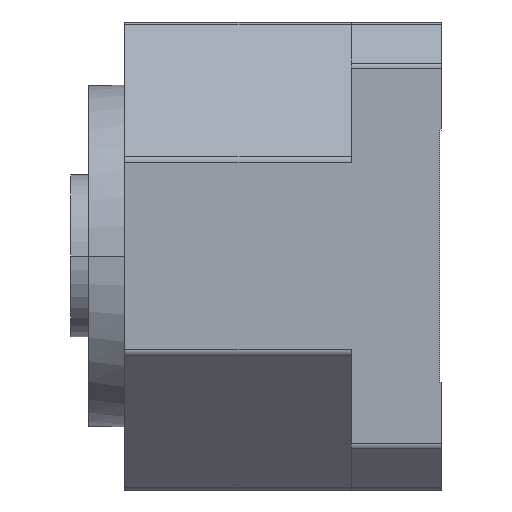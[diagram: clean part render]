
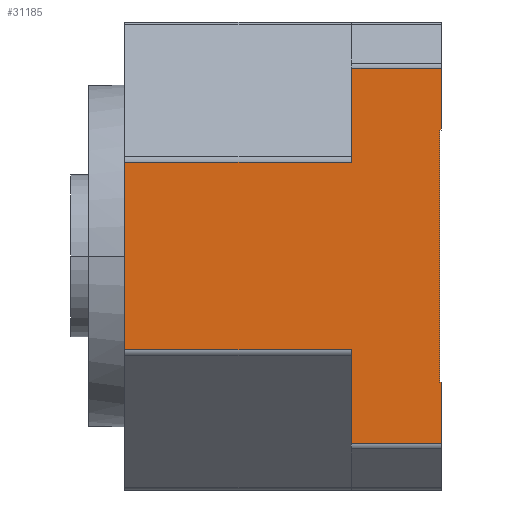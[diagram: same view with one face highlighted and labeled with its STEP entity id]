
A CAD part, left-side view. The second image highlights one B-rep face of the part: STEP entity #31185.
In plain terms, the highlighted planar face has unit normal (-1, 0, 0).
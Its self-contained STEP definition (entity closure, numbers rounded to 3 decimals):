
#27137=DIRECTION('',(0.,0.,1.));
#27138=VECTOR('',#27137,17.172);
#27139=CARTESIAN_POINT('',(-65.,-63.,-52.172));
#27140=LINE('',#27139,#27138);
#27218=DIRECTION('',(0.,0.,1.));
#27219=VECTOR('',#27218,17.172);
#27220=CARTESIAN_POINT('',(-65.,-63.,35.));
#27221=LINE('',#27220,#27219);
#27325=DIRECTION('',(0.,0.,-1.));
#27326=VECTOR('',#27325,26.076);
#27327=CARTESIAN_POINT('',(-65.,-38.,-26.095));
#27328=LINE('',#27327,#27326);
#27370=DIRECTION('',(0.,0.,-1.));
#27371=VECTOR('',#27370,26.076);
#27372=CARTESIAN_POINT('',(-65.,-38.,52.172));
#27373=LINE('',#27372,#27371);
#27499=DIRECTION('',(0.,0.,1.));
#27500=VECTOR('',#27499,52.191);
#27501=CARTESIAN_POINT('',(-65.,25.,-26.095));
#27502=LINE('',#27501,#27500);
#27982=DIRECTION('',(0.,-1.,0.));
#27983=VECTOR('',#27982,25.);
#27984=CARTESIAN_POINT('',(-65.,-38.,-52.172));
#27985=LINE('',#27984,#27983);
#27986=DIRECTION('',(0.,-1.,0.));
#27987=VECTOR('',#27986,63.);
#27988=CARTESIAN_POINT('',(-65.,25.,-26.095));
#27989=LINE('',#27988,#27987);
#27990=DIRECTION('',(0.,1.,0.));
#27991=VECTOR('',#27990,63.);
#27992=CARTESIAN_POINT('',(-65.,-38.,26.095));
#27993=LINE('',#27992,#27991);
#27994=DIRECTION('',(0.,1.,0.));
#27995=VECTOR('',#27994,25.);
#27996=CARTESIAN_POINT('',(-65.,-63.,52.172));
#27997=LINE('',#27996,#27995);
#27998=DIRECTION('',(0.,1.,0.));
#27999=VECTOR('',#27998,0.5);
#28000=CARTESIAN_POINT('',(-65.,-63.,35.));
#28001=LINE('',#28000,#27999);
#28002=DIRECTION('',(0.,0.,1.));
#28003=VECTOR('',#28002,70.);
#28004=CARTESIAN_POINT('',(-65.,-62.5,-35.));
#28005=LINE('',#28004,#28003);
#28006=DIRECTION('',(0.,1.,0.));
#28007=VECTOR('',#28006,0.5);
#28008=CARTESIAN_POINT('',(-65.,-63.,-35.));
#28009=LINE('',#28008,#28007);
#29596=CARTESIAN_POINT('',(-65.,-63.,35.));
#29597=VERTEX_POINT('',#29596);
#29598=CARTESIAN_POINT('',(-65.,-63.,-35.));
#29600=VERTEX_POINT('',#29598);
#29604=CARTESIAN_POINT('',(-65.,-62.5,-35.));
#29605=CARTESIAN_POINT('',(-65.,-62.5,35.));
#29606=VERTEX_POINT('',#29604);
#29607=VERTEX_POINT('',#29605);
#29654=CARTESIAN_POINT('',(-65.,-63.,-52.172));
#29656=VERTEX_POINT('',#29654);
#29660=CARTESIAN_POINT('',(-65.,-38.,-52.172));
#29661=VERTEX_POINT('',#29660);
#29686=CARTESIAN_POINT('',(-65.,-38.,52.172));
#29688=VERTEX_POINT('',#29686);
#29692=CARTESIAN_POINT('',(-65.,-63.,52.172));
#29693=VERTEX_POINT('',#29692);
#29738=CARTESIAN_POINT('',(-65.,25.,-26.095));
#29739=VERTEX_POINT('',#29738);
#29740=CARTESIAN_POINT('',(-65.,-38.,-26.095));
#29741=VERTEX_POINT('',#29740);
#29742=CARTESIAN_POINT('',(-65.,25.,26.095));
#29744=VERTEX_POINT('',#29742);
#29748=CARTESIAN_POINT('',(-65.,-38.,26.095));
#29749=VERTEX_POINT('',#29748);
#31160=CARTESIAN_POINT('',(-65.,-63.,-65.));
#31161=DIRECTION('',(-1.,0.,0.));
#31162=DIRECTION('',(0.,0.,1.));
#31163=AXIS2_PLACEMENT_3D('',#31160,#31161,#31162);
#31164=PLANE('',#31163);
#31166=ORIENTED_EDGE('',*,*,#31165,.F.);
#31167=ORIENTED_EDGE('',*,*,#30457,.F.);
#31169=ORIENTED_EDGE('',*,*,#31168,.F.);
#31170=ORIENTED_EDGE('',*,*,#30669,.T.);
#31172=ORIENTED_EDGE('',*,*,#31171,.F.);
#31173=ORIENTED_EDGE('',*,*,#30509,.F.);
#31175=ORIENTED_EDGE('',*,*,#31174,.F.);
#31176=ORIENTED_EDGE('',*,*,#30363,.F.);
#31178=ORIENTED_EDGE('',*,*,#31177,.T.);
#31179=ORIENTED_EDGE('',*,*,#31129,.F.);
#31181=ORIENTED_EDGE('',*,*,#31180,.F.);
#31182=ORIENTED_EDGE('',*,*,#30297,.F.);
#31183=EDGE_LOOP('',(#31166,#31167,#31169,#31170,#31172,#31173,#31175,#31176,
#31178,#31179,#31181,#31182));
#31184=FACE_OUTER_BOUND('',#31183,.F.);
#31185=ADVANCED_FACE('',(#31184),#31164,.T.);
#30297=EDGE_CURVE('',#29656,#29600,#27140,.T.);
#30363=EDGE_CURVE('',#29597,#29693,#27221,.T.);
#30457=EDGE_CURVE('',#29741,#29661,#27328,.T.);
#30509=EDGE_CURVE('',#29688,#29749,#27373,.T.);
#30669=EDGE_CURVE('',#29739,#29744,#27502,.T.);
#31129=EDGE_CURVE('',#29606,#29607,#28005,.T.);
#31165=EDGE_CURVE('',#29661,#29656,#27985,.T.);
#31168=EDGE_CURVE('',#29739,#29741,#27989,.T.);
#31171=EDGE_CURVE('',#29749,#29744,#27993,.T.);
#31174=EDGE_CURVE('',#29693,#29688,#27997,.T.);
#31177=EDGE_CURVE('',#29597,#29607,#28001,.T.);
#31180=EDGE_CURVE('',#29600,#29606,#28009,.T.);
